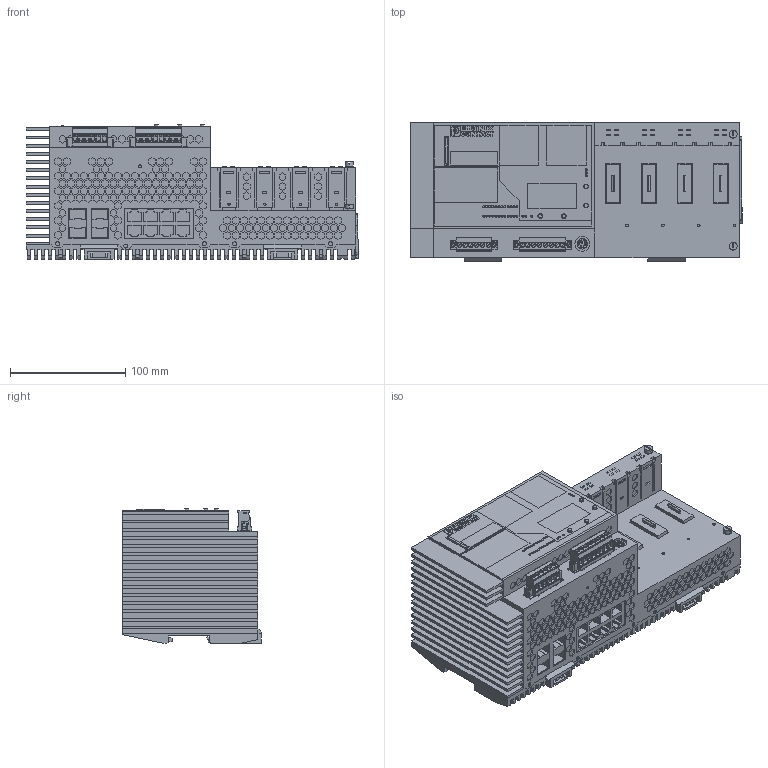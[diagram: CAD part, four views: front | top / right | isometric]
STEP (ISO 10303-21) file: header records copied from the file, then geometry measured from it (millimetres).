
FILE_DESCRIPTION(('CoCreate Modeling STEP Export'),'2;1');
FILE_NAME('00530303.stp','2009-10-08T21:00:29',(''),(''),'CoCreate Modeling STEP processor for AP214 (Solid Model)','CoCreate Modeling 16.00A 16-Aug-2008 (C) Parametric Technology GmbH','');
FILE_SCHEMA(('AUTOMOTIVE_DESIGN { 1 0 10303 214 1 1 1 1 }'));
Length unit declared in the file: millimetre
Products named in the file (6): 3030789_atp_st_twin_select; mms_st-abdeckung.1; mvstbr_2.5-hc-6-stf-5.08; mvstbr_2.5-8-stf-5.08; FL_SWITCH_GHS; FL_SWITCH_GHS_..._PAC
Assembly tree (8 placements, depth 2):
  FL_SWITCH_GHS_..._PAC
    FL_SWITCH_GHS
    mvstbr_2.5-8-stf-5.08
    mms_st-abdeckung.1  x4
    mvstbr_2.5-hc-6-stf-5.08
    3030789_atp_st_twin_select
Bounding box: 288.6 x 120.7 x 117.2 mm (x, y, z)
Volume: 2457689.6 mm3; surface area: 326181.7 mm2
Topology: 8 solids, 8 shells, 6895 faces, 17935 edges, 11984 vertices
Faces by surface type: plane 6248, cylinder 499, sphere 76, cone 36, torus 36
Entity records: 253362 total; most frequent: CARTESIAN_POINT 36925, ORIENTED_EDGE 35638, DIRECTION 29653, EDGE_CURVE 17819, VECTOR 15871, LINE 15871, VERTEX_POINT 11915, EDGE_LOOP 7778
